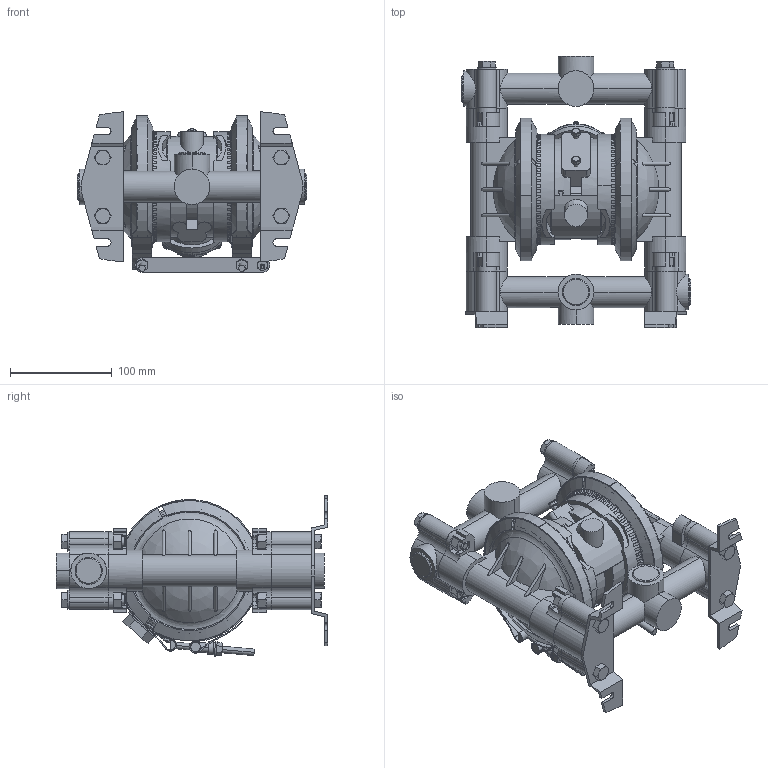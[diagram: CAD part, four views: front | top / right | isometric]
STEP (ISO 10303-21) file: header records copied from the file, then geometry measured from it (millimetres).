
FILE_DESCRIPTION((''),'2;1');
FILE_NAME('243305-EN-K_PRT','2019-12-31T16:37:55',('qusrh3'),(''),'CREO PARAMETRIC BY PTC INC, 2019030','CREO PARAMETRIC BY PTC INC, 2019030','');
FILE_SCHEMA(('CONFIG_CONTROL_DESIGN'));
Products named in the file (1): 243305-EN-K_PRT
Bounding box: 225.3 x 266.32 x 157.53 mm (x, y, z)
Surface area: 453725.2 mm2 (no closed solid volume)
Topology: 0 solids, 116 shells, 2162 faces, 6265 edges, 4161 vertices
Faces by surface type: plane 871, torus 466, cylinder 425, cone 349, bspline 32, sphere 18, extrusion 1
Entity records: 79894 total; most frequent: CARTESIAN_POINT 25111, ORIENTED_EDGE 11673, DIRECTION 11060, EDGE_CURVE 6265, AXIS2_PLACEMENT_3D 4415, VERTEX_POINT 4161, CIRCLE 2286, VECTOR 2230
